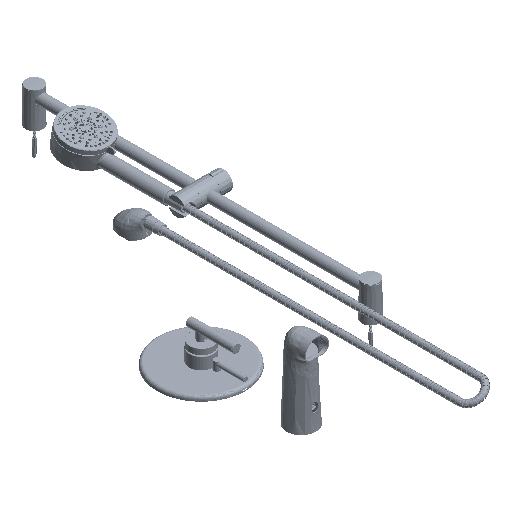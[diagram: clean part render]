
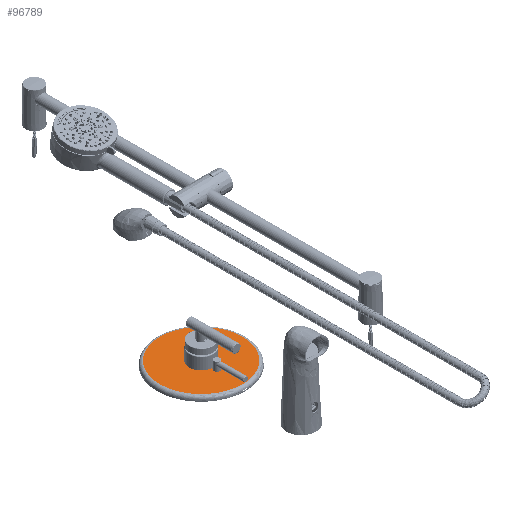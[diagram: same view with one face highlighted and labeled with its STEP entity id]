
A CAD part, isometric view. The second image highlights one B-rep face of the part: STEP entity #96789.
In plain terms, the highlighted planar face has unit normal (0, 0, 1).
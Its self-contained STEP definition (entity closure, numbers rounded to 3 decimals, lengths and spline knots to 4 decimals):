
#1150 = ORIENTED_EDGE ( 'NONE', *, *, #245565, .F. ) ;
#3035 = VERTEX_POINT ( 'NONE', #210887 ) ;
#4361 = CARTESIAN_POINT ( 'NONE',  ( 0., -1.27, 0. ) ) ;
#8778 = ORIENTED_EDGE ( 'NONE', *, *, #102360, .T. ) ;
#9516 = CARTESIAN_POINT ( 'NONE',  ( 1.0255, 0., 0. ) ) ;
#10821 = DIRECTION ( 'NONE',  ( 1., 0., 0. ) ) ;
#15494 = VECTOR ( 'NONE', #44994, 39.3701 ) ;
#20925 = EDGE_CURVE ( 'NONE', #36618, #3035, #49974, .T. ) ;
#26367 = ORIENTED_EDGE ( 'NONE', *, *, #41241, .F. ) ;
#29573 = DIRECTION ( 'NONE',  ( 0., -1., 0. ) ) ;
#30473 = ORIENTED_EDGE ( 'NONE', *, *, #126124, .F. ) ;
#32548 = VERTEX_POINT ( 'NONE', #260122 ) ;
#33355 = VERTEX_POINT ( 'NONE', #154101 ) ;
#36618 = VERTEX_POINT ( 'NONE', #160570 ) ;
#37982 = CIRCLE ( 'NONE', #64029, 3.5 ) ;
#41241 = EDGE_CURVE ( 'NONE', #105143, #140296, #221666, .T. ) ;
#41289 = CIRCLE ( 'NONE', #132411, 0.1275 ) ;
#44242 = CARTESIAN_POINT ( 'NONE',  ( 0., 0., 0. ) ) ;
#44994 = DIRECTION ( 'NONE',  ( 0., 1., 0. ) ) ;
#48591 = CARTESIAN_POINT ( 'NONE',  ( 0., 0., 0. ) ) ;
#49974 = LINE ( 'NONE', #132979, #78497 ) ;
#50690 = ORIENTED_EDGE ( 'NONE', *, *, #118577, .F. ) ;
#55430 = CARTESIAN_POINT ( 'NONE',  ( 0., 0., 0. ) ) ;
#56254 = DIRECTION ( 'NONE',  ( 0., 0., 1. ) ) ;
#62304 = EDGE_LOOP ( 'NONE', ( #50690, #82071, #82740, #1150, #26367, #30473 ) ) ;
#62382 = EDGE_LOOP ( 'NONE', ( #8778, #236585 ) ) ;
#64029 = AXIS2_PLACEMENT_3D ( 'NONE', #55430, #180556, #263552 ) ;
#70711 = EDGE_CURVE ( 'NONE', #32548, #183307, #212225, .T. ) ;
#78497 = VECTOR ( 'NONE', #29573, 39.3701 ) ;
#82071 = ORIENTED_EDGE ( 'NONE', *, *, #253607, .F. ) ;
#82740 = ORIENTED_EDGE ( 'NONE', *, *, #20925, .F. ) ;
#87372 = DIRECTION ( 'NONE',  ( 0., 0., 1. ) ) ;
#96789 = ADVANCED_FACE ( 'NONE', ( #192517, #129954 ), #255107, .T. ) ;
#102360 = EDGE_CURVE ( 'NONE', #183307, #32548, #37982, .T. ) ;
#105143 = VERTEX_POINT ( 'NONE', #9516 ) ;
#107353 = CARTESIAN_POINT ( 'NONE',  ( 0., 0., 0. ) ) ;
#111567 = DIRECTION ( 'NONE',  ( 0., 0., 1. ) ) ;
#118577 = EDGE_CURVE ( 'NONE', #33355, #186154, #231390, .T. ) ;
#125900 = DIRECTION ( 'NONE',  ( 0., 0., 1. ) ) ;
#126124 = EDGE_CURVE ( 'NONE', #186154, #105143, #228760, .T. ) ;
#127254 = DIRECTION ( 'NONE',  ( 1., 0., 0. ) ) ;
#129954 = FACE_OUTER_BOUND ( 'NONE', #62382, .T. ) ;
#132411 = AXIS2_PLACEMENT_3D ( 'NONE', #4361, #87372, #170324 ) ;
#132979 = CARTESIAN_POINT ( 'NONE',  ( -0.1275, -1.0175, 0. ) ) ;
#133325 = CARTESIAN_POINT ( 'NONE',  ( 0., 0., 0. ) ) ;
#135686 = DIRECTION ( 'NONE',  ( 1., 0., 0. ) ) ;
#136213 = CARTESIAN_POINT ( 'NONE',  ( -1.0255, 0., 0. ) ) ;
#137918 = CARTESIAN_POINT ( 'NONE',  ( 0.1275, -1.0175, 0. ) ) ;
#140296 = VERTEX_POINT ( 'NONE', #136213 ) ;
#154101 = CARTESIAN_POINT ( 'NONE',  ( 0.1275, -1.27, 0. ) ) ;
#160570 = CARTESIAN_POINT ( 'NONE',  ( -0.1275, -1.0175, 0. ) ) ;
#162450 = AXIS2_PLACEMENT_3D ( 'NONE', #107353, #184911, #190316 ) ;
#170324 = DIRECTION ( 'NONE',  ( 1., 0., 0. ) ) ;
#175481 = CIRCLE ( 'NONE', #162450, 1.0255 ) ;
#180484 = CARTESIAN_POINT ( 'NONE',  ( 0., 0., 0. ) ) ;
#180556 = DIRECTION ( 'NONE',  ( 0., 0., 1. ) ) ;
#183307 = VERTEX_POINT ( 'NONE', #210605 ) ;
#184911 = DIRECTION ( 'NONE',  ( 0., 0., 1. ) ) ;
#186154 = VERTEX_POINT ( 'NONE', #137918 ) ;
#186478 = CARTESIAN_POINT ( 'NONE',  ( 0.1275, -1.0175, 0. ) ) ;
#190316 = DIRECTION ( 'NONE',  ( 1., 0., 0. ) ) ;
#192517 = FACE_BOUND ( 'NONE', #62304, .T. ) ;
#197818 = DIRECTION ( 'NONE',  ( 1., 0., 0. ) ) ;
#206979 = AXIS2_PLACEMENT_3D ( 'NONE', #180484, #263478, #135686 ) ;
#210605 = CARTESIAN_POINT ( 'NONE',  ( 3.5, 0., 0. ) ) ;
#210887 = CARTESIAN_POINT ( 'NONE',  ( -0.1275, -1.27, 0. ) ) ;
#212225 = CIRCLE ( 'NONE', #212388, 3.5 ) ;
#212388 = AXIS2_PLACEMENT_3D ( 'NONE', #48591, #56254, #197818 ) ;
#221666 = CIRCLE ( 'NONE', #243410, 1.0255 ) ;
#228760 = CIRCLE ( 'NONE', #206979, 1.0255 ) ;
#231390 = LINE ( 'NONE', #186478, #15494 ) ;
#236585 = ORIENTED_EDGE ( 'NONE', *, *, #70711, .T. ) ;
#243410 = AXIS2_PLACEMENT_3D ( 'NONE', #133325, #111567, #10821 ) ;
#245565 = EDGE_CURVE ( 'NONE', #140296, #36618, #175481, .T. ) ;
#250471 = AXIS2_PLACEMENT_3D ( 'NONE', #44242, #125900, #127254 ) ;
#253607 = EDGE_CURVE ( 'NONE', #3035, #33355, #41289, .T. ) ;
#255107 = PLANE ( 'NONE',  #250471 ) ;
#260122 = CARTESIAN_POINT ( 'NONE',  ( -3.5, 0., 0. ) ) ;
#263478 = DIRECTION ( 'NONE',  ( 0., 0., 1. ) ) ;
#263552 = DIRECTION ( 'NONE',  ( 1., 0., 0. ) ) ;
